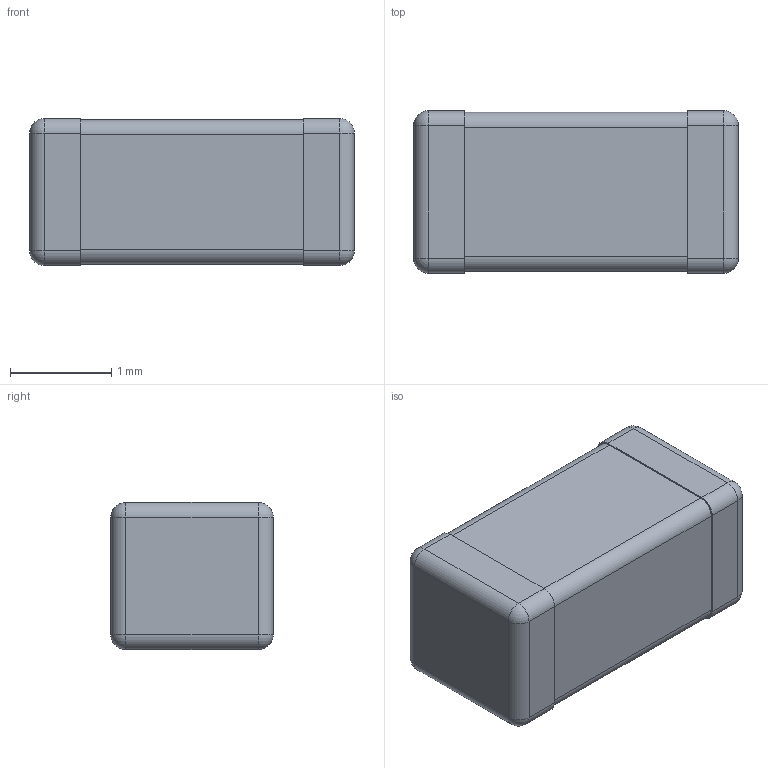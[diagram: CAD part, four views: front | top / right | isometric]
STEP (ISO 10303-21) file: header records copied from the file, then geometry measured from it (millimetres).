
FILE_DESCRIPTION(('FreeCAD Model'),'2;1');
FILE_NAME('/var/www/3D/0T/16179423.1.1.stp','2022-05-14T05:23:41',( 'Author'),(''),'Open CASCADE STEP processor 6.9','FreeCAD','Unknown' );
FILE_SCHEMA(('AUTOMOTIVE_DESIGN { 1 0 10303 214 1 1 1 1 }'));
Length unit declared in the file: millimetre
Products named in the file (4): ASSEMBLY; Fillet1; Fillet2; body2
Assembly tree (3 placements, depth 2):
  ASSEMBLY
    Fillet1
    Fillet2
    body2
Bounding box: 3.2 x 1.6 x 1.45 mm (x, y, z)
Volume: 7.1 mm3; surface area: 31.3 mm2
Topology: 3 solids, 3 shells, 46 faces, 104 edges, 56 vertices
Faces by surface type: cylinder 20, plane 18, sphere 8
Entity records: 2540 total; most frequent: CARTESIAN_POINT 474, DIRECTION 388, LINE 200, VECTOR 200, ORIENTED_EDGE 192, PCURVE 192, DEFINITIONAL_REPRESENTATION 192, EDGE_CURVE 96
